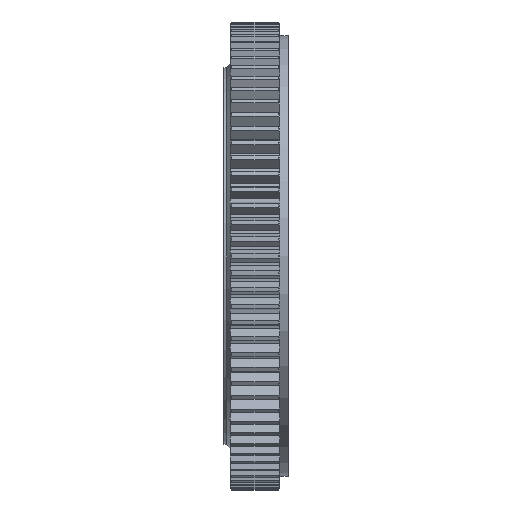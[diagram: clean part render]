
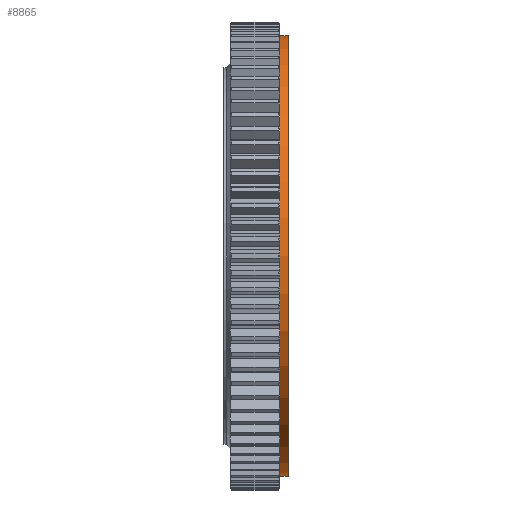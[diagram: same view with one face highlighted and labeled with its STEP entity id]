
A CAD part, left-side view. The second image highlights one B-rep face of the part: STEP entity #8865.
In plain terms, the highlighted cylindrical face has radius 335 mm (diameter 670 mm), a partial arc.
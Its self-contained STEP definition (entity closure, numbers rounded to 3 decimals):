
#51 = CARTESIAN_POINT ( 'NONE',  ( 0., -117.197, 335. ) ) ;
#768 = AXIS2_PLACEMENT_3D ( 'NONE', #12330, #12178, #3686 ) ;
#1617 = CIRCLE ( 'NONE', #20336, 335. ) ;
#3666 = ORIENTED_EDGE ( 'NONE', *, *, #7478, .T. ) ;
#3686 = DIRECTION ( 'NONE',  ( 0., 0., -1. ) ) ;
#5336 = CARTESIAN_POINT ( 'NONE',  ( 0., -117.197, -335. ) ) ;
#6014 = DIRECTION ( 'NONE',  ( 0., 0., -1. ) ) ;
#6273 = VERTEX_POINT ( 'NONE', #19021 ) ;
#6372 = ORIENTED_EDGE ( 'NONE', *, *, #13458, .F. ) ;
#6434 = ORIENTED_EDGE ( 'NONE', *, *, #21134, .T. ) ;
#6967 = CARTESIAN_POINT ( 'NONE',  ( 0., 0., 335. ) ) ;
#7478 = EDGE_CURVE ( 'NONE', #20635, #24783, #16505, .T. ) ;
#7684 = DIRECTION ( 'NONE',  ( 0., -1., 0. ) ) ;
#8544 = FACE_OUTER_BOUND ( 'NONE', #12551, .T. ) ;
#8865 = ADVANCED_FACE ( 'NONE', ( #8544 ), #14828, .T. ) ;
#9211 = AXIS2_PLACEMENT_3D ( 'NONE', #25182, #10603, #6014 ) ;
#10603 = DIRECTION ( 'NONE',  ( 0., -1., 0. ) ) ;
#11548 = DIRECTION ( 'NONE',  ( 0., -1., 0. ) ) ;
#12178 = DIRECTION ( 'NONE',  ( 0., -1., 0. ) ) ;
#12330 = CARTESIAN_POINT ( 'NONE',  ( 0., 0., 0. ) ) ;
#12458 = VERTEX_POINT ( 'NONE', #51 ) ;
#12551 = EDGE_LOOP ( 'NONE', ( #6372, #6434, #3666, #24798 ) ) ;
#13458 = EDGE_CURVE ( 'NONE', #6273, #12458, #23897, .T. ) ;
#14828 = CYLINDRICAL_SURFACE ( 'NONE', #768, 335. ) ;
#14948 = VECTOR ( 'NONE', #16075, 1000. ) ;
#16075 = DIRECTION ( 'NONE',  ( 0., -1., 0. ) ) ;
#16115 = EDGE_CURVE ( 'NONE', #12458, #24783, #1617, .T. ) ;
#16505 = LINE ( 'NONE', #20280, #14948 ) ;
#19021 = CARTESIAN_POINT ( 'NONE',  ( 0., -104.197, 335. ) ) ;
#20280 = CARTESIAN_POINT ( 'NONE',  ( 0., 0., -335. ) ) ;
#20336 = AXIS2_PLACEMENT_3D ( 'NONE', #24629, #7684, #20422 ) ;
#20422 = DIRECTION ( 'NONE',  ( 0., 0., -1. ) ) ;
#20635 = VERTEX_POINT ( 'NONE', #27230 ) ;
#21134 = EDGE_CURVE ( 'NONE', #6273, #20635, #21276, .T. ) ;
#21276 = CIRCLE ( 'NONE', #9211, 335. ) ;
#23889 = VECTOR ( 'NONE', #11548, 1000. ) ;
#23897 = LINE ( 'NONE', #6967, #23889 ) ;
#24629 = CARTESIAN_POINT ( 'NONE',  ( 0., -117.197, 0. ) ) ;
#24783 = VERTEX_POINT ( 'NONE', #5336 ) ;
#24798 = ORIENTED_EDGE ( 'NONE', *, *, #16115, .F. ) ;
#25182 = CARTESIAN_POINT ( 'NONE',  ( 0., -104.197, 0. ) ) ;
#27230 = CARTESIAN_POINT ( 'NONE',  ( 0., -104.197, -335. ) ) ;
